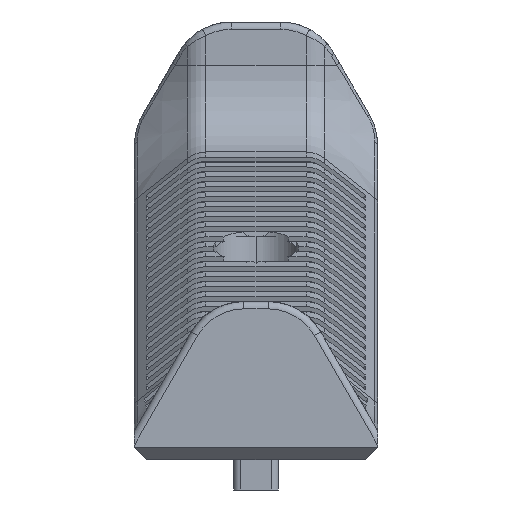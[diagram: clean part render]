
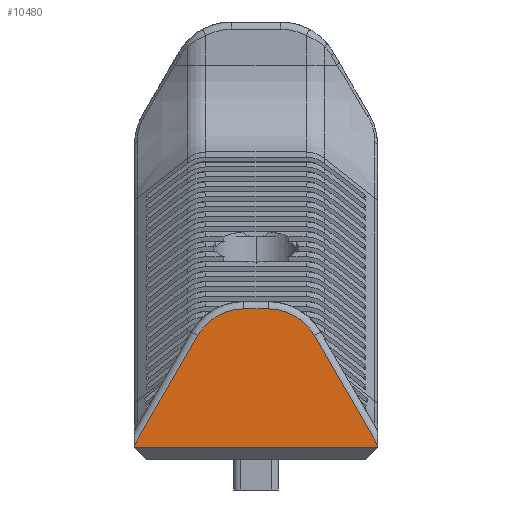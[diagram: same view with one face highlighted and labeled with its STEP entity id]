
A CAD part, left-side view. The second image highlights one B-rep face of the part: STEP entity #10480.
In plain terms, the highlighted planar face has unit normal (-1, 0, 0).
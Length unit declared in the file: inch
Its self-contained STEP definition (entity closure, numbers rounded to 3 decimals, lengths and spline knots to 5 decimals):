
#3 = EDGE_CURVE ( 'NONE', #13916, #9258, #7232, .T. ) ;
#28 = DIRECTION ( 'NONE',  ( 0., -1., 0. ) ) ;
#220 = DIRECTION ( 'NONE',  ( -1., 0., 0. ) ) ;
#515 = CARTESIAN_POINT ( 'NONE',  ( -2., 0.47402, 0.105 ) ) ;
#885 = CARTESIAN_POINT ( 'NONE',  ( -2., 0.5, 0.06 ) ) ;
#1033 = DIRECTION ( 'NONE',  ( -1., 0., 0. ) ) ;
#1047 = VERTEX_POINT ( 'NONE', #2185 ) ;
#1414 = ORIENTED_EDGE ( 'NONE', *, *, #3856, .T. ) ;
#1838 = VECTOR ( 'NONE', #6797, 39.37008 ) ;
#2185 = CARTESIAN_POINT ( 'NONE',  ( -2., 0.24019, 0.51 ) ) ;
#2318 = LINE ( 'NONE', #5280, #1838 ) ;
#2419 = DIRECTION ( 'NONE',  ( 0., 0., 1. ) ) ;
#2646 = CIRCLE ( 'NONE', #3247, 0.22 ) ;
#2654 = VECTOR ( 'NONE', #8043, 39.37008 ) ;
#2952 = CARTESIAN_POINT ( 'NONE',  ( -2., 0.5, 0.62 ) ) ;
#3066 = CARTESIAN_POINT ( 'NONE',  ( -2., -0.24019, 0.51 ) ) ;
#3094 = CARTESIAN_POINT ( 'NONE',  ( -2., 0.5, 0.05 ) ) ;
#3111 = VERTEX_POINT ( 'NONE', #3094 ) ;
#3240 = VECTOR ( 'NONE', #2419, 39.37008 ) ;
#3247 = AXIS2_PLACEMENT_3D ( 'NONE', #9194, #220, #10708 ) ;
#3287 = EDGE_CURVE ( 'NONE', #9258, #13538, #13337, .T. ) ;
#3509 = VERTEX_POINT ( 'NONE', #12285 ) ;
#3650 = EDGE_CURVE ( 'NONE', #3111, #4837, #2318, .T. ) ;
#3709 = CARTESIAN_POINT ( 'NONE',  ( -2., -0.5, 0.06 ) ) ;
#3739 = CARTESIAN_POINT ( 'NONE',  ( -2., 0.5, 0.65 ) ) ;
#3856 = EDGE_CURVE ( 'NONE', #3111, #13916, #14013, .T. ) ;
#4581 = AXIS2_PLACEMENT_3D ( 'NONE', #3739, #14206, #5240 ) ;
#4837 = VERTEX_POINT ( 'NONE', #885 ) ;
#5240 = DIRECTION ( 'NONE',  ( 0., 0., -1. ) ) ;
#5280 = CARTESIAN_POINT ( 'NONE',  ( -2., 0.5, 0.65 ) ) ;
#5409 = ORIENTED_EDGE ( 'NONE', *, *, #3, .T. ) ;
#6797 = DIRECTION ( 'NONE',  ( 0., 0., 1. ) ) ;
#6991 = CARTESIAN_POINT ( 'NONE',  ( -2., -0.24019, 0.51 ) ) ;
#7232 = LINE ( 'NONE', #12882, #3240 ) ;
#7811 = EDGE_CURVE ( 'NONE', #13538, #3509, #18361, .T. ) ;
#7923 = ORIENTED_EDGE ( 'NONE', *, *, #7811, .T. ) ;
#8043 = DIRECTION ( 'NONE',  ( 0., 0.5, -0.866 ) ) ;
#8751 = EDGE_LOOP ( 'NONE', ( #5409, #11494, #7923, #12237, #18676, #17243, #11611, #1414 ) ) ;
#8890 = VECTOR ( 'NONE', #17455, 39.37008 ) ;
#9194 = CARTESIAN_POINT ( 'NONE',  ( -2., 0.04967, 0.4 ) ) ;
#9258 = VERTEX_POINT ( 'NONE', #3709 ) ;
#9669 = CARTESIAN_POINT ( 'NONE',  ( -2., 0.04967, 0.62 ) ) ;
#10016 = CARTESIAN_POINT ( 'NONE',  ( -2., -0.04967, 0.4 ) ) ;
#10140 = LINE ( 'NONE', #515, #2654 ) ;
#10325 = CARTESIAN_POINT ( 'NONE',  ( -2., -0.5, 0.05 ) ) ;
#10480 = ADVANCED_FACE ( 'NONE', ( #18608 ), #12686, .F. ) ;
#10708 = DIRECTION ( 'NONE',  ( 0., 0., -1. ) ) ;
#11494 = ORIENTED_EDGE ( 'NONE', *, *, #3287, .T. ) ;
#11514 = DIRECTION ( 'NONE',  ( 0., 0., -1. ) ) ;
#11611 = ORIENTED_EDGE ( 'NONE', *, *, #3650, .F. ) ;
#11696 = AXIS2_PLACEMENT_3D ( 'NONE', #10016, #1033, #11514 ) ;
#12224 = EDGE_CURVE ( 'NONE', #17319, #1047, #2646, .T. ) ;
#12237 = ORIENTED_EDGE ( 'NONE', *, *, #13345, .T. ) ;
#12285 = CARTESIAN_POINT ( 'NONE',  ( -2., -0.04967, 0.62 ) ) ;
#12686 = PLANE ( 'NONE',  #4581 ) ;
#12882 = CARTESIAN_POINT ( 'NONE',  ( -2., -0.5, 0.65 ) ) ;
#13134 = VECTOR ( 'NONE', #14875, 39.37008 ) ;
#13337 = LINE ( 'NONE', #6991, #8890 ) ;
#13345 = EDGE_CURVE ( 'NONE', #3509, #17319, #16658, .T. ) ;
#13510 = CARTESIAN_POINT ( 'NONE',  ( -2., 0.5, 0.05 ) ) ;
#13538 = VERTEX_POINT ( 'NONE', #3066 ) ;
#13916 = VERTEX_POINT ( 'NONE', #10325 ) ;
#14013 = LINE ( 'NONE', #13510, #14978 ) ;
#14206 = DIRECTION ( 'NONE',  ( 1., 0., 0. ) ) ;
#14875 = DIRECTION ( 'NONE',  ( 0., 1., 0. ) ) ;
#14978 = VECTOR ( 'NONE', #28, 39.37008 ) ;
#16658 = LINE ( 'NONE', #2952, #13134 ) ;
#17243 = ORIENTED_EDGE ( 'NONE', *, *, #18776, .T. ) ;
#17319 = VERTEX_POINT ( 'NONE', #9669 ) ;
#17455 = DIRECTION ( 'NONE',  ( 0., 0.5, 0.866 ) ) ;
#18361 = CIRCLE ( 'NONE', #11696, 0.22 ) ;
#18608 = FACE_OUTER_BOUND ( 'NONE', #8751, .T. ) ;
#18676 = ORIENTED_EDGE ( 'NONE', *, *, #12224, .T. ) ;
#18776 = EDGE_CURVE ( 'NONE', #1047, #4837, #10140, .T. ) ;
